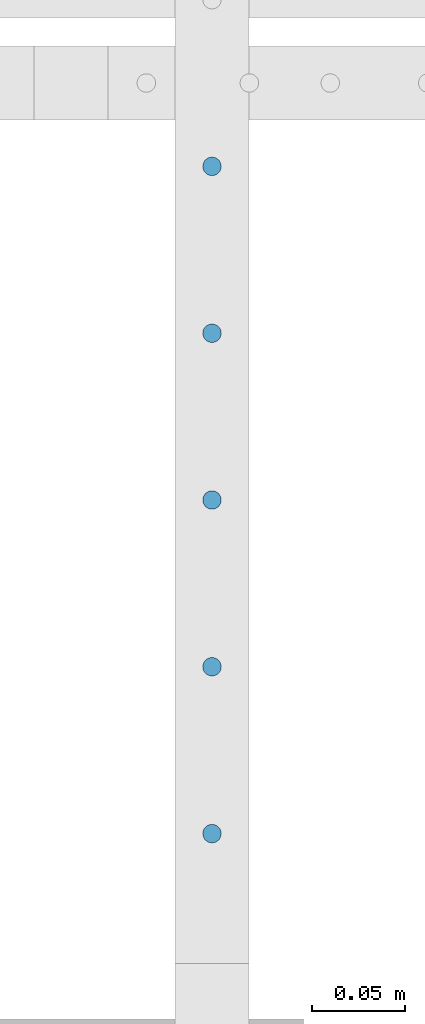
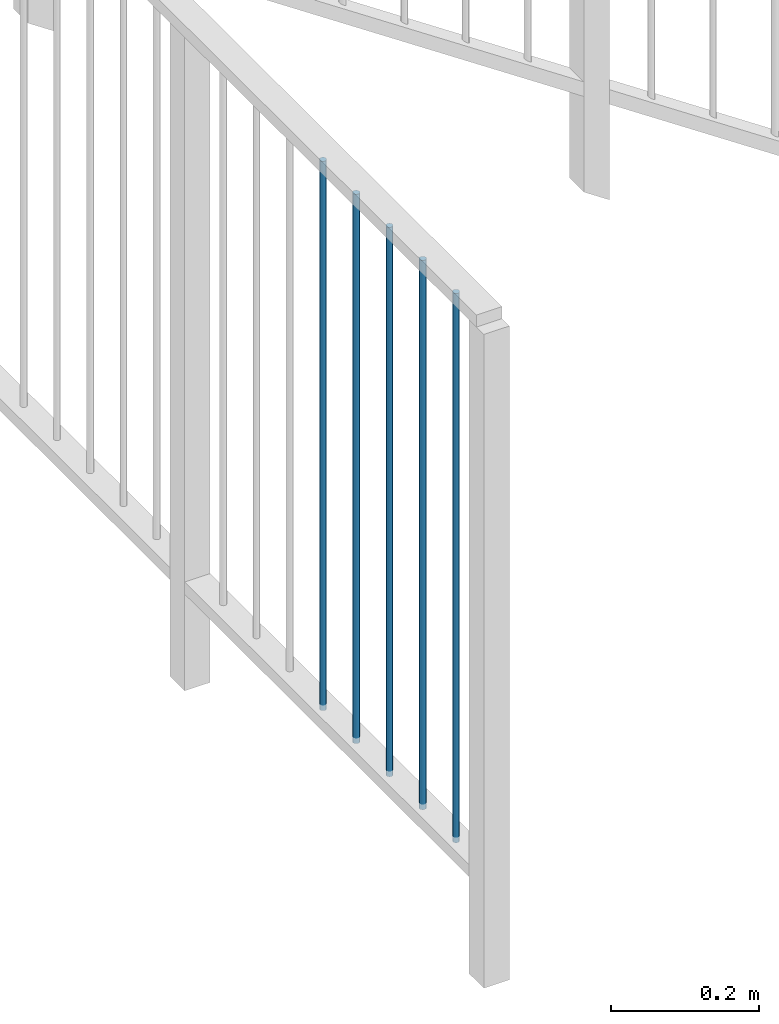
# One storey, part 14 of 135: 5 members, 1 element without a shape of its own.
"""IFC2X3 building model written with IfcOpenShell, lengths in millimetres."""

from ifc_helpers import new_model, entity, si_unit, converted_unit, derived_unit, money_unit, direction, frame, origin_with_axes, place, context, subcontext, project, spatial, faceted_brep, source, transform, mapped, material, type_object, type_shapes, element, aggregate, save


model = new_model("IFC2X3")

# Units and contexts
model_context = context("Model", 3, precision=0.01, world=origin_with_axes(), true_north=direction((0.0, 1.0)))
body_context = subcontext(model_context, "Body", "Model", "MODEL_VIEW")
ifc_project = project(units=[si_unit("LENGTHUNIT", "METRE", prefix="MILLI"), si_unit("AREAUNIT", "SQUARE_METRE"), si_unit("VOLUMEUNIT", "CUBIC_METRE"), converted_unit("PLANEANGLEUNIT", "DEGREE", entity("IfcPlaneAngleMeasure", 0.0174532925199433), si_unit("PLANEANGLEUNIT", "RADIAN"), dimensions=[0, 0, 0, 0, 0, 0, 0]), money_unit("EUR"), converted_unit("TIMEUNIT", "Year", entity("IfcTimeMeasure", 31557600.0), si_unit("TIMEUNIT", "SECOND"), dimensions=[0, 0, 1, 0, 0, 0, 0]), si_unit("MASSUNIT", "GRAM", prefix="KILO"), si_unit("THERMODYNAMICTEMPERATUREUNIT", "DEGREE_CELSIUS"), si_unit("LUMINOUSINTENSITYUNIT", "LUMEN"), si_unit("ENERGYUNIT", "JOULE", prefix="MEGA"), derived_unit("THERMALCONDUCTANCEUNIT", [(si_unit("POWERUNIT", "WATT"), 1), (si_unit("LENGTHUNIT", "METRE"), -1), (si_unit("THERMODYNAMICTEMPERATUREUNIT", "KELVIN"), -1)]), derived_unit("SPECIFICHEATCAPACITYUNIT", [(si_unit("ENERGYUNIT", "JOULE"), 1), (si_unit("MASSUNIT", "GRAM", prefix="KILO"), -1), (si_unit("THERMODYNAMICTEMPERATUREUNIT", "KELVIN"), -1)]), derived_unit("MASSDENSITYUNIT", [(si_unit("MASSUNIT", "GRAM", prefix="KILO"), 1), (si_unit("VOLUMEUNIT", "CUBIC_METRE"), -1)])], contexts=[model_context])

# Site, building, storey
site_placement = place(None, origin_with_axes())
site = spatial("IfcSite", under=ifc_project, at=site_placement, Name="Site", CompositionType="ELEMENT")
building_placement = place(site_placement, origin_with_axes())
building = spatial("IfcBuilding", under=site, at=building_placement, Name="Naam gebouw", CompositionType="ELEMENT")
storey_placement = place(building_placement, origin_with_axes())
storey = spatial("IfcBuildingStorey", under=building, at=storey_placement, Name="Begane grond N", CompositionType="ELEMENT", Elevation=0.0)

# Railing, members
railing_type = type_object("IfcRailingType", Name="Railing Type", PredefinedType="NOTDEFINED")
railing_placement = place(storey_placement, frame((56209.65277777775, 21185.9124251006, 7662.6), z_axis=(0.0, 0.0, 1.0), x_axis=(1.0, 0.0, 0.0)))
railing = element("IfcRailing", 1, at=railing_placement, inside=storey, type_object=railing_type, Name="_Reling-x", PredefinedType="NOTDEFINED")
ifc_material = material(Name="Metaal - Staal C")
member_type = type_object("IfcMemberType", Name="IfcMember", PredefinedType="MEMBER")
shared_shape = source(origin_with_axes(), body_context, "Body", "Brep", [
    faceted_brep([(0.0, -5.0, 0.0), (0.8682408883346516, -4.92403876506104, 0.0), (0.868240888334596, -4.92403876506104, 907.5000000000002), (0.0, -5.0, 907.5000000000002), (-0.868240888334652, -4.92403876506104, 0.0), (-1.710100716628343, -4.698463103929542, 0.0), (-2.500000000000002, -4.330127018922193, 0.0), (-3.213938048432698, -3.830222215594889, 0.0), (-3.830222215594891, -3.213938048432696, 0.0), (-4.330127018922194, -2.5, 0.0), (-4.698463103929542, -1.710100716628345, 0.0), (-4.924038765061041, -0.86824088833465, 0.0), (-5.0, 0.0, 0.0), (-4.92403876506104, 0.8682408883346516, 0.0), (-4.698463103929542, 1.710100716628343, 0.0), (-4.330127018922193, 2.500000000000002, 0.0), (-3.83022221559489, 3.213938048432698, 0.0), (-3.213938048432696, 3.83022221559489, 0.0), (-2.5, 4.330127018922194, 0.0), (-1.710100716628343, 4.698463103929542, 0.0), (-0.8682408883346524, 4.92403876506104, 0.0), (0.0, 5.0, 0.0), (0.8682408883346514, 4.92403876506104, 0.0), (1.710100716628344, 4.698463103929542, 0.0), (2.5, 4.330127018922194, 0.0), (3.213938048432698, 3.83022221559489, 0.0), (3.83022221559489, 3.213938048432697, 0.0), (4.330127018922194, 2.499999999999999, 0.0), (4.698463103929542, 1.710100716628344, 0.0), (4.92403876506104, 0.8682408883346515, 0.0), (5.0, 0.0, 0.0), (4.92403876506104, -0.8682408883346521, 0.0), (4.698463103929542, -1.710100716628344, 0.0), (4.330127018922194, -2.5, 0.0), (3.83022221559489, -3.213938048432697, 0.0), (3.213938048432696, -3.83022221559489, 0.0), (2.5, -4.330127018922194, 0.0), (1.710100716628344, -4.698463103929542, 0.0), (1.710100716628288, -4.698463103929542, 907.5000000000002), (2.499999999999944, -4.330127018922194, 907.5000000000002), (3.213938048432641, -3.83022221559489, 907.5000000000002), (3.830222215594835, -3.213938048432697, 907.5000000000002), (4.330127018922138, -2.5, 907.5000000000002), (4.698463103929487, -1.710100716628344, 907.5000000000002), (4.924038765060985, -0.8682408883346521, 907.5000000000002), (4.999999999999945, 0.0, 907.5000000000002), (4.924038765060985, 0.8682408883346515, 907.5000000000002), (4.698463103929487, 1.710100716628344, 907.5000000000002), (4.330127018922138, 2.499999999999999, 907.5000000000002), (3.830222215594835, 3.213938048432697, 907.5000000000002), (3.213938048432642, 3.83022221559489, 907.5000000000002), (2.499999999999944, 4.330127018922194, 907.5000000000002), (1.710100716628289, 4.698463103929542, 907.5000000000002), (0.8682408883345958, 4.92403876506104, 907.5000000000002), (0.0, 5.0, 907.5000000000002), (-0.868240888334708, 4.92403876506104, 907.5000000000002), (-1.710100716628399, 4.698463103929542, 907.5000000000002), (-2.500000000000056, 4.330127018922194, 907.5000000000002), (-3.213938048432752, 3.83022221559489, 907.5000000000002), (-3.830222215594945, 3.213938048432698, 907.5000000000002), (-4.330127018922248, 2.500000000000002, 907.5000000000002), (-4.698463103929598, 1.710100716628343, 907.5000000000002), (-4.924038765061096, 0.8682408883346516, 907.5000000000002), (-5.000000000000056, 0.0, 907.5000000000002), (-4.924038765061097, -0.86824088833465, 907.5000000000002), (-4.698463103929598, -1.710100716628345, 907.5000000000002), (-4.330127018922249, -2.5, 907.5000000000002), (-3.830222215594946, -3.213938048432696, 907.5000000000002), (-3.213938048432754, -3.830222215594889, 907.5000000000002), (-2.500000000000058, -4.330127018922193, 907.5000000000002), (-1.710100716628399, -4.698463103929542, 907.5000000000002), (-0.8682408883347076, -4.92403876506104, 907.5000000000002)], [[[0, 1, 2, 3]], [[0, 4, 5, 6, 7, 8, 9, 10, 11, 12, 13, 14, 15, 16, 17, 18, 19, 20, 21, 22, 23, 24, 25, 26, 27, 28, 29, 30, 31, 32, 33, 34, 35, 36, 37, 1]], [[1, 37, 38, 2]], [[3, 2, 38, 39, 40, 41, 42, 43, 44, 45, 46, 47, 48, 49, 50, 51, 52, 53, 54, 55, 56, 57, 58, 59, 60, 61, 62, 63, 64, 65, 66, 67, 68, 69, 70, 71]], [[4, 0, 3, 71]], [[5, 4, 71, 70]], [[6, 5, 70, 69]], [[7, 6, 69, 68]], [[8, 7, 68, 67]], [[9, 8, 67, 66]], [[10, 9, 66, 65]], [[11, 10, 65, 64]], [[12, 11, 64, 63]], [[13, 12, 63, 62]], [[14, 13, 62, 61]], [[15, 14, 61, 60]], [[16, 15, 60, 59]], [[17, 16, 59, 58]], [[18, 17, 58, 57]], [[19, 18, 57, 56]], [[20, 19, 56, 55]], [[21, 20, 55, 54]], [[22, 21, 54, 53]], [[23, 22, 53, 52]], [[24, 23, 52, 51]], [[25, 24, 51, 50]], [[26, 25, 50, 49]], [[27, 26, 49, 48]], [[28, 27, 48, 47]], [[29, 28, 47, 46]], [[30, 29, 46, 45]], [[31, 30, 45, 44]], [[32, 31, 44, 43]], [[33, 32, 43, 42]], [[34, 33, 42, 41]], [[35, 34, 41, 40]], [[36, 35, 40, 39]], [[37, 36, 39, 38]]]),
])
type_shapes(member_type, [shared_shape])
member_1_placement = place(railing_placement, frame((24.99999999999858, -429.9999999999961, 70.00000000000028), z_axis=(0.0, 0.0, 1.0), x_axis=(1.0, 0.0, 0.0)))
member_1 = element("IfcMember", 2, at=member_1_placement, type_object=member_type, material=ifc_material, Name="_Spijlen-x", ObjectType="MEMBER", context=body_context, shape_type="MappedRepresentation", body=[
    mapped(shared_shape, transform((0.0, 0.0, 0.0))),
])
member_2_placement = place(railing_placement, frame((24.99999999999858, -339.9999999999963, 70.00000000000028), z_axis=(0.0, 0.0, 1.0), x_axis=(1.0, 0.0, 0.0)))
member_2 = element("IfcMember", 3, at=member_2_placement, type_object=member_type, material=ifc_material, Name="_Spijlen-x", ObjectType="MEMBER", context=body_context, shape_type="MappedRepresentation", body=[
    mapped(shared_shape, transform((0.0, 0.0, 0.0))),
])
member_3_placement = place(railing_placement, frame((24.99999999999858, -249.9999999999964, 70.00000000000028), z_axis=(0.0, 0.0, 1.0), x_axis=(1.0, 0.0, 0.0)))
member_3 = element("IfcMember", 4, at=member_3_placement, type_object=member_type, material=ifc_material, Name="_Spijlen-x", ObjectType="MEMBER", context=body_context, shape_type="MappedRepresentation", body=[
    mapped(shared_shape, transform((0.0, 0.0, 0.0))),
])
member_4_placement = place(railing_placement, frame((24.99999999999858, -159.9999999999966, 70.00000000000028), z_axis=(0.0, 0.0, 1.0), x_axis=(1.0, 0.0, 0.0)))
member_4 = element("IfcMember", 5, at=member_4_placement, type_object=member_type, material=ifc_material, Name="_Spijlen-x", ObjectType="MEMBER", context=body_context, shape_type="MappedRepresentation", body=[
    mapped(shared_shape, transform((0.0, 0.0, 0.0))),
])
member_5_placement = place(railing_placement, frame((24.99999999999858, -69.99999999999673, 70.00000000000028), z_axis=(0.0, 0.0, 1.0), x_axis=(1.0, 0.0, 0.0)))
member_5 = element("IfcMember", 6, at=member_5_placement, type_object=member_type, material=ifc_material, Name="_Spijlen-x", ObjectType="MEMBER", context=body_context, shape_type="MappedRepresentation", body=[
    mapped(shared_shape, transform((0.0, 0.0, 0.0))),
])
aggregate(railing, [member_1, member_2, member_3, member_4, member_5])

save(model, "model.ifc")
